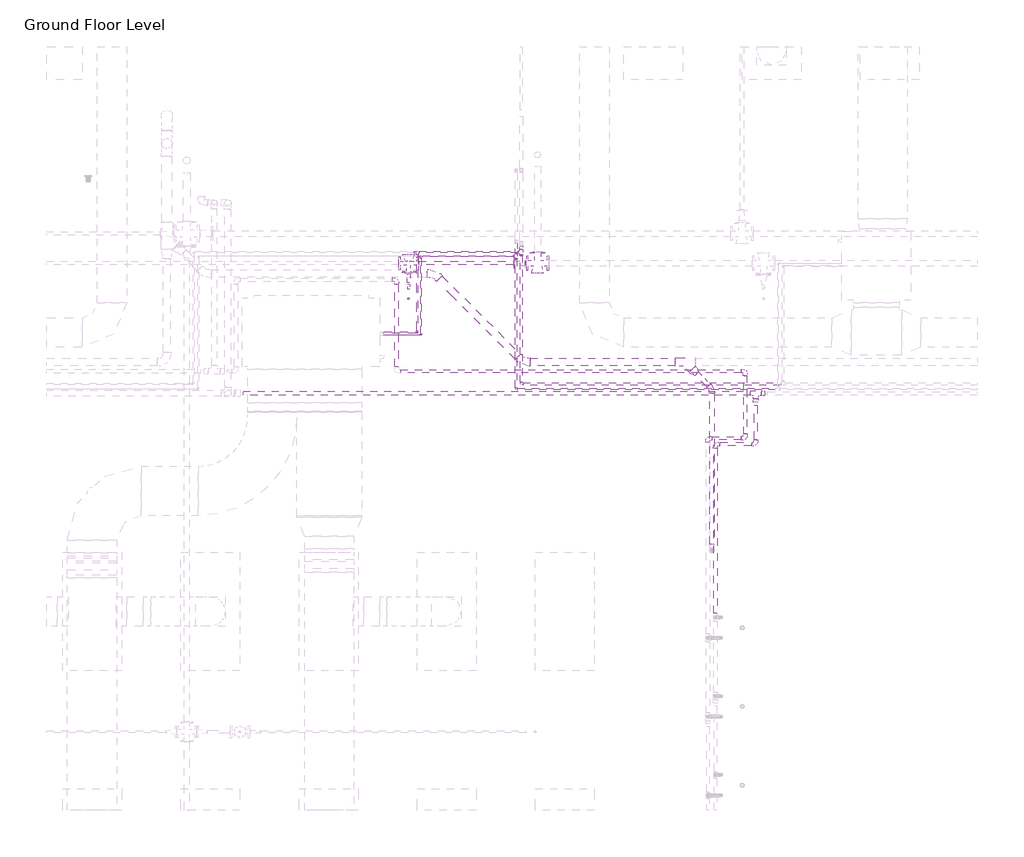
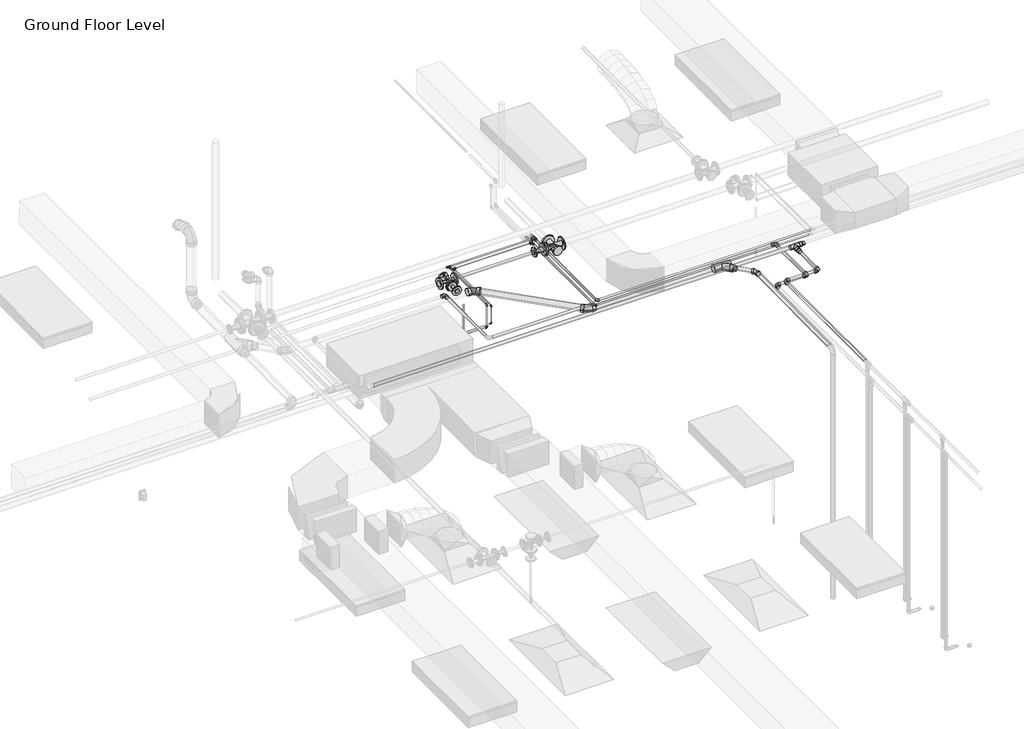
# One storey, part 53 of 74: 36 pipe fittings, 29 pipe segments, 1 fire suppression terminal.
"""IFC4 building model written with IfcOpenShell, lengths in millimetres."""

from ifc_helpers import new_model, si_unit, point, frame, frame_2d, origin, place, context, project, spatial, circle_curve, trimmed, segment, composite_curve, outline, extrude, transform, mapped, element, save
from components import m_sprinkler_pendent_15_mm_pendent_06fcbd8e, m_bend_pvc_sch_40_dwv_standard_9e3ead78, m_bend_pvc_sch_40_dwv_standard_3e306cb9, m_elbow_generic_standard_a088f956, m_elbow_generic_standard_2a704253, m_elbow_generic_standard_f25111a3, m_elbow_generic_standard_aa88c7e2, m_elbow_generic_standard_73005802, m_elbow_generic_standard_bb5ffebe, m_reducer_flanged_cs_class_150_standard_ccf252ad, m_reducer_flanged_cs_class_150_standard_a7631c35, m_reducer_pvc_sch_40_dwv_standard_daff2b06, m_tee_generic_standard_cdc1cff5, m_tee_generic_standard_d9c36a1d, m_tee_generic_standard_3138dd84, m_tee_generic_standard_5078887e, m_tee_pvc_sch_40_standard_5dbb3026, m_tee_round_base_flanged_cs_class_150_standard_dd767e04, m_tee_round_base_flanged_cs_class_150_standard_7e5987a1, m_transition_generic_standard_6dc712c0, m_transition_generic_standard_b63c8674, m_transition_generic_standard_1c56dba2, m_transition_generic_standard_a7d161d7, m_transition_generic_standard_5a02929d, m_transition_generic_standard_5f8a9689, standard_517a5a8d, standard_08ff6011, standard_d0d0b892

model = new_model("IFC4")

# Units and contexts
model_context = context("Model", 3, world=origin())
ifc_project = project(units=[si_unit("LENGTHUNIT", "METRE", prefix="MILLI")], contexts=[model_context])

# Site, building, storey
site = spatial("IfcSite", under=ifc_project)
building = spatial("IfcBuilding", under=site)
storey = spatial("IfcBuildingStorey", under=building, Name="Ground Floor Level", Elevation=900.0)

# Fire suppression terminal
placement = place(None, origin())
m_sprinkler_pendent_15_mm_pendent_shape = m_sprinkler_pendent_15_mm_pendent_06fcbd8e(model_context)
element("IfcFireSuppressionTerminal", 1, ObjectType="M_Sprinkler - Pendent : 15 mm Pendent", at=placement, inside=storey, context=model_context, shape_type="MappedRepresentation", body=[
    mapped(m_sprinkler_pendent_15_mm_pendent_shape, transform((-3723.9852405, 14413.1701264, 3650.0), x_axis=(1.0, 0.0, 0.0), y_axis=(0.0, 1.0, 0.0), z_axis=(0.0, 0.0, 1.0))),
])

# Pipe fittings
m_bend_pvc_sch_40_dwv_standard_shape = m_bend_pvc_sch_40_dwv_standard_9e3ead78(model_context)
element("IfcPipeFitting", 2, ObjectType="M_Bend - PVC - Sch 40 - DWV : Standard", at=placement, inside=storey, context=model_context, shape_type="MappedRepresentation", body=[
    mapped(m_bend_pvc_sch_40_dwv_standard_shape, transform((-3461.339311, 14668.7334723, 4139.7239678), x_axis=(-0.707093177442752, 0.7070575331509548, 0.009427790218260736), y_axis=(-0.7070496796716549, -0.7071481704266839, 0.004713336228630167), z_axis=(0.009999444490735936, -0.003333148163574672, 0.9999444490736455))),
])
element("IfcPipeFitting", 3, ObjectType="M_Bend - PVC - Sch 40 - DWV : Standard", at=placement, inside=storey, context=model_context, shape_type="MappedRepresentation", body=[
    mapped(m_bend_pvc_sch_40_dwv_standard_shape, transform((-2561.2921336, 13768.7316659, 4127.72349), x_axis=(0.7070931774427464, -0.7070575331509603, -0.009427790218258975), y_axis=(0.7070496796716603, 0.7071481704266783, -0.0047133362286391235), z_axis=(0.009999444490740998, -0.003333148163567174, 0.9999444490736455))),
])
m_bend_pvc_sch_40_dwv_standard_2_shape = m_bend_pvc_sch_40_dwv_standard_3e306cb9(model_context)
element("IfcPipeFitting", 4, ObjectType="M_Bend - PVC - Sch 40 - DWV : Standard", at=placement, inside=storey, context=model_context, shape_type="MappedRepresentation", body=[
    mapped(m_bend_pvc_sch_40_dwv_standard_2_shape, transform((-642.2357232, 13495.4654482, 4110.1731446), x_axis=(0.0, 0.9999500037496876, 0.009999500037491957), y_axis=(-0.9999912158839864, -4.191228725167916e-05, 0.004191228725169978), z_axis=(0.004191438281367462, -0.00999941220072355, 0.9999412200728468))),
])
m_elbow_generic_standard_shape = m_elbow_generic_standard_a088f956(model_context)
element("IfcPipeFitting", 5, ObjectType="M_Elbow - Generic : Standard", at=placement, inside=storey, context=model_context, shape_type="MappedRepresentation", body=[
    mapped(m_elbow_generic_standard_shape, transform((-3637.0883718, 14069.8153534, 4380.0), x_axis=(0.0, 0.0, 1.0), y_axis=(0.0, 1.0, 0.0), z_axis=(-1.0, 0.0, 0.0))),
])
m_elbow_generic_standard_2_shape = m_elbow_generic_standard_2a704253(model_context)
element("IfcPipeFitting", 6, ObjectType="M_Elbow - Generic : Standard", at=placement, inside=storey, context=model_context, shape_type="MappedRepresentation", body=[
    mapped(m_elbow_generic_standard_2_shape, transform((-3597.0886568, 14044.8153534, 4365.0), x_axis=(0.0, 0.0, 1.0), y_axis=(0.0, 1.0, 0.0), z_axis=(-1.0, 0.0, 0.0))),
])
m_elbow_generic_standard_3_shape = m_elbow_generic_standard_f25111a3(model_context)
element("IfcPipeFitting", 7, ObjectType="M_Elbow - Generic : Standard", at=placement, inside=storey, context=model_context, shape_type="MappedRepresentation", body=[
    mapped(m_elbow_generic_standard_3_shape, transform((-3597.0886568, 14044.8153534, 4134.9021206), x_axis=(0.9999999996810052, 0.0, 2.525845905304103e-05), y_axis=(-2.525845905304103e-05, 0.0, 0.9999999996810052), z_axis=(0.0, -1.0, 0.0))),
])
m_elbow_generic_standard_4_shape = m_elbow_generic_standard_aa88c7e2(model_context)
element("IfcPipeFitting", 8, ObjectType="M_Elbow - Generic : Standard", at=placement, inside=storey, context=model_context, shape_type="MappedRepresentation", body=[
    mapped(m_elbow_generic_standard_4_shape, transform((-3637.0883718, 14069.8153534, 4084.1021206), x_axis=(0.9999999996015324, 0.0, 2.823004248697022e-05), y_axis=(-2.823004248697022e-05, 0.0, 0.9999999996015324), z_axis=(0.0, -1.0, 0.0))),
])
m_elbow_generic_standard_5_shape = m_elbow_generic_standard_73005802(model_context)
element("IfcPipeFitting", 9, ObjectType="M_Elbow - Generic : Standard", at=placement, inside=storey, context=model_context, shape_type="MappedRepresentation", body=[
    mapped(m_elbow_generic_standard_5_shape, transform((-2579.6952605, 13545.2153534, 4380.0), x_axis=(0.0, -1.0, 0.0), y_axis=(1.0, 0.0, 0.0), z_axis=(0.0, 0.0, 1.0))),
])
m_elbow_generic_standard_6_shape = m_elbow_generic_standard_bb5ffebe(model_context)
element("IfcPipeFitting", 10, ObjectType="M_Elbow - Generic : Standard", at=placement, inside=storey, context=model_context, shape_type="MappedRepresentation", body=[
    mapped(m_elbow_generic_standard_6_shape, transform((-2632.5317947, 13494.0185138, 4365.0), x_axis=(0.0, -1.0, 0.0), y_axis=(1.0, 0.0, 0.0), z_axis=(0.0, 0.0, 1.0))),
])
m_reducer_flanged_cs_class_150_standard_shape = m_reducer_flanged_cs_class_150_standard_ccf252ad(model_context)
element("IfcPipeFitting", 11, ObjectType="M_Reducer - Flanged - CS - Class 150 : Standard", at=placement, inside=storey, context=model_context, shape_type="MappedRepresentation", body=[
    mapped(m_reducer_flanged_cs_class_150_standard_shape, transform((-3723.9852405, 14672.759591, 4291.0943441), x_axis=(0.0, -1.0, 0.0), y_axis=(1.0, 0.0, 0.0), z_axis=(0.0, 0.0, 1.0))),
])
m_reducer_flanged_cs_class_150_standard_2_shape = m_reducer_flanged_cs_class_150_standard_a7631c35(model_context)
element("IfcPipeFitting", 12, ObjectType="M_Reducer - Flanged - CS - Class 150 : Standard", at=placement, inside=storey, context=model_context, shape_type="MappedRepresentation", body=[
    mapped(m_reducer_flanged_cs_class_150_standard_2_shape, transform((-2527.9259545, 14773.4681847, 4291.0943441), x_axis=(-1.0, 0.0, 0.0), y_axis=(0.0, -1.0, 0.0), z_axis=(0.0, 0.0, 1.0))),
])
m_reducer_pvc_sch_40_dwv_standard_shape = m_reducer_pvc_sch_40_dwv_standard_daff2b06(model_context)
element("IfcPipeFitting", 13, ObjectType="M_Reducer - PVC - Sch 40 - DWV : Standard", at=placement, inside=storey, context=model_context, shape_type="MappedRepresentation", body=[
    mapped(m_reducer_pvc_sch_40_dwv_standard_shape, transform((-843.6840301, 13696.9036229, 4110.2439857), x_axis=(0.7070889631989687, -0.7070533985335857, -0.010034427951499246), y_axis=(0.707053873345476, 0.7071477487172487, -0.004108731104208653), z_axis=(0.010000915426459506, -0.004189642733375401, 0.9999412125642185))),
])
m_tee_generic_standard_shape = m_tee_generic_standard_cdc1cff5(model_context)
element("IfcPipeFitting", 14, ObjectType="M_Tee - Generic : Standard", at=placement, inside=storey, context=model_context, shape_type="MappedRepresentation", body=[
    mapped(m_tee_generic_standard_shape, transform((-3637.091079, 14885.6024145, 4380.0), x_axis=(-1.0, 0.0, 0.0), y_axis=(0.0, 1.0, 0.0), z_axis=(0.0, 0.0, -1.0))),
])
m_tee_generic_standard_2_shape = m_tee_generic_standard_d9c36a1d(model_context)
element("IfcPipeFitting", 15, ObjectType="M_Tee - Generic : Standard", at=placement, inside=storey, context=model_context, shape_type="MappedRepresentation", body=[
    mapped(m_tee_generic_standard_2_shape, transform((-3597.091079, 14844.4055749, 4365.0), x_axis=(1.0, 0.0, 0.0), y_axis=(0.0, 1.0, 0.0), z_axis=(0.0, 0.0, 1.0))),
])
m_tee_generic_standard_3_shape = m_tee_generic_standard_3138dd84(model_context)
element("IfcPipeFitting", 16, ObjectType="M_Tee - Generic : Standard", at=placement, inside=storey, context=model_context, shape_type="MappedRepresentation", body=[
    mapped(m_tee_generic_standard_3_shape, transform((-2579.6952605, 14885.6024145, 4380.0), x_axis=(0.0, 1.0, 0.0), y_axis=(1.0, 0.0, 0.0), z_axis=(0.0, 0.0, -1.0))),
])
m_tee_generic_standard_4_shape = m_tee_generic_standard_5078887e(model_context)
element("IfcPipeFitting", 17, ObjectType="M_Tee - Generic : Standard", at=placement, inside=storey, context=model_context, shape_type="MappedRepresentation", body=[
    mapped(m_tee_generic_standard_4_shape, transform((-2632.5317947, 14844.4055749, 4365.0), x_axis=(0.0, 1.0, 0.0), y_axis=(1.0, 0.0, 0.0), z_axis=(0.0, 0.0, -1.0))),
])
m_tee_pvc_sch_40_standard_shape = m_tee_pvc_sch_40_standard_5dbb3026(model_context)
element("IfcPipeFitting", 18, ObjectType="M_Tee - PVC - Sch 40 : Standard", at=placement, inside=storey, context=model_context, shape_type="MappedRepresentation", body=[
    mapped(m_tee_pvc_sch_40_standard_shape, transform((-915.515686, 13768.7316659, 4111.2633618), x_axis=(-0.9999499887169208, 0.0, 0.010001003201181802), y_axis=(4.190063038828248e-05, 0.9999912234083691, 0.004189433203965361), z_axis=(-0.010000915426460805, 0.004189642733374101, -0.9999412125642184))),
])
m_tee_round_base_flanged_cs_class_150_standard_shape = m_tee_round_base_flanged_cs_class_150_standard_dd767e04(model_context)
element("IfcPipeFitting", 19, ObjectType="M_Tee Round Base - Flanged - CS - Class 150 : Standard", at=placement, inside=storey, context=model_context, shape_type="MappedRepresentation", body=[
    mapped(m_tee_round_base_flanged_cs_class_150_standard_shape, transform((-2413.9259545, 14773.4681847, 4291.0943441), x_axis=(-1.0, 0.0, 0.0), y_axis=(0.0, -1.0, 0.0), z_axis=(0.0, 0.0, 1.0))),
])
m_tee_round_base_flanged_cs_class_150_standard_2_shape = m_tee_round_base_flanged_cs_class_150_standard_7e5987a1(model_context)
element("IfcPipeFitting", 20, ObjectType="M_Tee Round Base - Flanged - CS - Class 150 : Standard", at=placement, inside=storey, context=model_context, shape_type="MappedRepresentation", body=[
    mapped(m_tee_round_base_flanged_cs_class_150_standard_2_shape, transform((-3723.9852405, 14773.4681847, 4291.0943441), x_axis=(-1.0, 0.0, 0.0), y_axis=(0.0, 1.0, 0.0), z_axis=(0.0, 0.0, -1.0))),
])
m_transition_generic_standard_shape = m_transition_generic_standard_6dc712c0(model_context)
element("IfcPipeFitting", 21, ObjectType="M_Transition - Generic : Standard", at=placement, inside=storey, context=model_context, shape_type="MappedRepresentation", body=[
    mapped(m_transition_generic_standard_shape, transform((-3659.316079, 14885.6024145, 4380.0), x_axis=(-1.0, 0.0, 0.0), y_axis=(0.0, -1.0, 0.0), z_axis=(0.0, 0.0, 1.0))),
])
element("IfcPipeFitting", 22, ObjectType="M_Transition - Generic : Standard", at=placement, inside=storey, context=model_context, shape_type="MappedRepresentation", body=[
    mapped(m_transition_generic_standard_shape, transform((-3637.091079, 14863.3774145, 4380.0), x_axis=(0.0, -1.0, 0.0), y_axis=(1.0, 0.0, 0.0), z_axis=(0.0, 0.0, 1.0))),
])
m_transition_generic_standard_2_shape = m_transition_generic_standard_b63c8674(model_context)
element("IfcPipeFitting", 23, ObjectType="M_Transition - Generic : Standard", at=placement, inside=storey, context=model_context, shape_type="MappedRepresentation", body=[
    mapped(m_transition_generic_standard_2_shape, transform((-3616.128579, 14844.4055749, 4365.0), x_axis=(-1.0, 0.0, 0.0), y_axis=(0.0, -1.0, 0.0), z_axis=(0.0, 0.0, 1.0))),
])
element("IfcPipeFitting", 24, ObjectType="M_Transition - Generic : Standard", at=placement, inside=storey, context=model_context, shape_type="MappedRepresentation", body=[
    mapped(m_transition_generic_standard_2_shape, transform((-3597.091079, 14825.3680749, 4365.0), x_axis=(0.0, -1.0, 0.0), y_axis=(1.0, 0.0, 0.0), z_axis=(0.0, 0.0, 1.0))),
])
m_transition_generic_standard_3_shape = m_transition_generic_standard_1c56dba2(model_context)
element("IfcPipeFitting", 25, ObjectType="M_Transition - Generic : Standard", at=placement, inside=storey, context=model_context, shape_type="MappedRepresentation", body=[
    mapped(m_transition_generic_standard_3_shape, transform((-2608.2702605, 14885.6024145, 4380.0), x_axis=(-1.0, 0.0, 0.0), y_axis=(0.0, -1.0, 0.0), z_axis=(0.0, 0.0, 1.0))),
])
m_transition_generic_standard_4_shape = m_transition_generic_standard_a7d161d7(model_context)
element("IfcPipeFitting", 26, ObjectType="M_Transition - Generic : Standard", at=placement, inside=storey, context=model_context, shape_type="MappedRepresentation", body=[
    mapped(m_transition_generic_standard_4_shape, transform((-2656.3442947, 14844.4055749, 4365.0), x_axis=(-1.0, 0.0, 0.0), y_axis=(0.0, -1.0, 0.0), z_axis=(0.0, 0.0, 1.0))),
])
m_transition_generic_standard_5_shape = m_transition_generic_standard_5a02929d(model_context)
element("IfcPipeFitting", 27, ObjectType="M_Transition - Generic : Standard", at=placement, inside=storey, context=model_context, shape_type="MappedRepresentation", body=[
    mapped(m_transition_generic_standard_5_shape, transform((-2579.6952605, 14857.0274145, 4380.0), x_axis=(0.0, -1.0, 0.0), y_axis=(1.0, 0.0, 0.0), z_axis=(0.0, 0.0, 1.0))),
])
m_transition_generic_standard_6_shape = m_transition_generic_standard_5f8a9689(model_context)
element("IfcPipeFitting", 28, ObjectType="M_Transition - Generic : Standard", at=placement, inside=storey, context=model_context, shape_type="MappedRepresentation", body=[
    mapped(m_transition_generic_standard_6_shape, transform((-2632.5317947, 14820.5930749, 4365.0), x_axis=(0.0, -1.0, 0.0), y_axis=(1.0, 0.0, 0.0), z_axis=(0.0, 0.0, 1.0))),
])
standard_shape = standard_517a5a8d(model_context)
element("IfcPipeFitting", 29, ObjectType="M_Elbow - CPVC - Sch 40 : Standard", at=placement, inside=storey, context=model_context, shape_type="MappedRepresentation", body=[
    mapped(standard_shape, transform((-607.2327605, 12935.5128345, 4315.0), x_axis=(-1.0, 0.0, 0.0), y_axis=(0.0, -1.0, 0.0), z_axis=(0.0, 0.0, 1.0))),
])
element("IfcPipeFitting", 30, ObjectType="M_Elbow - CPVC - Sch 40 : Standard", at=placement, inside=storey, context=model_context, shape_type="MappedRepresentation", body=[
    mapped(standard_shape, transform((-197.2327605, 12935.5128345, 4315.0), x_axis=(1.0, 0.0, 0.0), y_axis=(0.0, 1.0, 0.0), z_axis=(0.0, 0.0, 1.0))),
])
element("IfcPipeFitting", 31, ObjectType="M_Elbow - CPVC - Sch 40 : Standard", at=placement, inside=storey, context=model_context, shape_type="MappedRepresentation", body=[
    mapped(standard_shape, transform((-304.0671674, 13675.2153534, 4250.0), x_axis=(0.0, 1.0, 0.0), y_axis=(-1.0, 0.0, 0.0), z_axis=(0.0, 0.0, 1.0))),
])
element("IfcPipeFitting", 32, ObjectType="M_Elbow - CPVC - Sch 40 : Standard", at=placement, inside=storey, context=model_context, shape_type="MappedRepresentation", body=[
    mapped(standard_shape, transform((-304.0671674, 12995.2153534, 4250.0), x_axis=(1.0, 0.0, 0.0), y_axis=(0.0, 1.0, 0.0), z_axis=(0.0, 0.0, 1.0))),
])
element("IfcPipeFitting", 33, ObjectType="M_Elbow - CPVC - Sch 40 : Standard", at=placement, inside=storey, context=model_context, shape_type="MappedRepresentation", body=[
    mapped(standard_shape, transform((-684.0671674, 12995.2153534, 4250.0), x_axis=(-1.0, 0.0, 0.0), y_axis=(0.0, -1.0, 0.0), z_axis=(0.0, 0.0, 1.0))),
])
element("IfcPipeFitting", 34, ObjectType="M_Elbow - CPVC - Sch 40 : Standard", at=placement, inside=storey, context=model_context, shape_type="MappedRepresentation", body=[
    mapped(standard_shape, transform((-3846.4489567, 14603.43487, 4250.0), x_axis=(0.0, 1.0, 0.0), y_axis=(-1.0, 0.0, 0.0), z_axis=(0.0, 0.0, 1.0))),
])
standard_2_shape = standard_08ff6011(model_context)
element("IfcPipeFitting", 35, ObjectType="M_Tee - CPVC - Sch 40 : Standard", at=placement, inside=storey, context=model_context, shape_type="MappedRepresentation", body=[
    mapped(standard_2_shape, transform((-197.2327605, 13449.9865561, 4315.0), x_axis=(1.0, 0.0, 0.0), y_axis=(0.0, 1.0, 0.0), z_axis=(0.0, 0.0, 1.0))),
])
standard_3_shape = standard_d0d0b892(model_context)
element("IfcPipeFitting", 36, ObjectType="M_Coupling Reducing - CPVC - Sch 40 : Standard", at=placement, inside=storey, context=model_context, shape_type="MappedRepresentation", body=[
    mapped(standard_3_shape, transform((-143.2577605, 13449.9865561, 4315.0), x_axis=(1.0, 0.0, 0.0), y_axis=(0.0, 1.0, 0.0), z_axis=(0.0, 0.0, 1.0))),
])
element("IfcPipeFitting", 37, ObjectType="M_Coupling Reducing - CPVC - Sch 40 : Standard", at=placement, inside=storey, context=model_context, shape_type="MappedRepresentation", body=[
    mapped(standard_3_shape, transform((-197.2327605, 13396.0115561, 4315.0), x_axis=(0.0, -1.0, 0.0), y_axis=(1.0, 0.0, 0.0), z_axis=(0.0, 0.0, 1.0))),
])

# Pipe segments
element("IfcPipeSegment", 38, ObjectType="CPVC", at=placement, inside=storey, context=model_context, shape_type="SweptSolid", body=[
    extrude(outline(composite_curve([segment(trimmed(circle_curve(frame_2d((4315.0, -607.2327605)), 16.7005), [point((4315.0, -590.5322605))], [point((4331.7005, -607.2327605))], False, "CARTESIAN"), True, "CONTINUOUS"), segment(trimmed(circle_curve(frame_2d((4315.0, -607.2327605)), 16.7005), [point((4331.7005, -607.2327605))], [point((4315.0, -623.9332605))], False, "CARTESIAN"), True, "CONTINUOUS"), segment(trimmed(circle_curve(frame_2d((4315.0, -607.2327605)), 16.7005), [point((4315.0, -623.9332605))], [point((4298.2995, -607.2327605))], False, "CARTESIAN"), True, "CONTINUOUS"), segment(trimmed(circle_curve(frame_2d((4315.0, -607.2327605)), 16.7005), [point((4298.2995, -607.2327605))], [point((4315.0, -590.5322605))], False, "CARTESIAN"), True, "CONTINUOUS")], self_intersect=False)), frame((0.0, 11215.2130345, 0.0), z_axis=(0.0, 1.0, 0.0), x_axis=(0.0, 0.0, 1.0)), (0.0, 0.0, 1.0), 1677.03725),
])
element("IfcPipeSegment", 39, ObjectType="CPVC", at=placement, inside=storey, context=model_context, shape_type="SweptSolid", body=[
    extrude(outline(composite_curve([segment(trimmed(circle_curve(frame_2d((12935.5128345, 4315.0)), 16.7005), [point((12918.8123345, 4315.0))], [point((12935.5128345, 4331.7005))], False, "CARTESIAN"), True, "CONTINUOUS"), segment(trimmed(circle_curve(frame_2d((12935.5128345, 4315.0)), 16.7005), [point((12935.5128345, 4331.7005))], [point((12952.2133345, 4315.0))], False, "CARTESIAN"), True, "CONTINUOUS"), segment(trimmed(circle_curve(frame_2d((12935.5128345, 4315.0)), 16.7005), [point((12952.2133345, 4315.0))], [point((12935.5128345, 4298.2995))], False, "CARTESIAN"), True, "CONTINUOUS"), segment(trimmed(circle_curve(frame_2d((12935.5128345, 4315.0)), 16.7005), [point((12935.5128345, 4298.2995))], [point((12918.8123345, 4315.0))], False, "CARTESIAN"), True, "CONTINUOUS")], self_intersect=False)), frame((-563.9702105, 0.0, 0.0), z_axis=(1.0, 0.0, 0.0), x_axis=(0.0, 1.0, 0.0)), (0.0, 0.0, 1.0), 323.4749),
])
element("IfcPipeSegment", 40, ObjectType="CPVC", at=placement, inside=storey, context=model_context, shape_type="SweptSolid", body=[
    extrude(outline(composite_curve([segment(trimmed(circle_curve(frame_2d((4315.0, -197.2327605)), 16.7005), [point((4315.0, -180.5322605))], [point((4331.7005, -197.2327605))], False, "CARTESIAN"), True, "CONTINUOUS"), segment(trimmed(circle_curve(frame_2d((4315.0, -197.2327605)), 16.7005), [point((4331.7005, -197.2327605))], [point((4315.0, -213.9332605))], False, "CARTESIAN"), True, "CONTINUOUS"), segment(trimmed(circle_curve(frame_2d((4315.0, -197.2327605)), 16.7005), [point((4315.0, -213.9332605))], [point((4298.2995, -197.2327605))], False, "CARTESIAN"), True, "CONTINUOUS"), segment(trimmed(circle_curve(frame_2d((4315.0, -197.2327605)), 16.7005), [point((4298.2995, -197.2327605))], [point((4315.0, -180.5322605))], False, "CARTESIAN"), True, "CONTINUOUS")], self_intersect=False)), frame((0.0, 12978.7753845, 0.0), z_axis=(0.0, 1.0, 0.0), x_axis=(0.0, 0.0, 1.0)), (0.0, 0.0, 1.0), 351.1172966),
])
element("IfcPipeSegment", 41, ObjectType="CPVC", at=placement, inside=storey, context=model_context, shape_type="SweptSolid", body=[
    extrude(outline(composite_curve([segment(trimmed(circle_curve(frame_2d((13449.9865561, 4315.0)), 21.082), [point((13471.0685561, 4315.0))], [point((13449.9865561, 4293.918))], False, "CARTESIAN"), True, "CONTINUOUS"), segment(trimmed(circle_curve(frame_2d((13449.9865561, 4315.0)), 21.082), [point((13449.9865561, 4293.918))], [point((13428.9045561, 4315.0))], False, "CARTESIAN"), True, "CONTINUOUS"), segment(trimmed(circle_curve(frame_2d((13449.9865561, 4315.0)), 21.082), [point((13428.9045561, 4315.0))], [point((13449.9865561, 4336.082))], False, "CARTESIAN"), True, "CONTINUOUS"), segment(trimmed(circle_curve(frame_2d((13449.9865561, 4315.0)), 21.082), [point((13449.9865561, 4336.082))], [point((13471.0685561, 4315.0))], False, "CARTESIAN"), True, "CONTINUOUS")], self_intersect=False)), frame((-5401.6556136, 0.0, 0.0), z_axis=(1.0, 0.0, 0.0), x_axis=(0.0, 1.0, 0.0)), (0.0, 0.0, 1.0), 5150.4478531),
])
element("IfcPipeSegment", 42, ObjectType="CPVC", at=placement, inside=storey, context=model_context, shape_type="SweptSolid", body=[
    extrude(outline(composite_curve([segment(trimmed(circle_curve(frame_2d((4250.0, -304.0671674)), 16.7005), [point((4250.0, -320.7676674))], [point((4233.2995, -304.0671674))], False, "CARTESIAN"), True, "CONTINUOUS"), segment(trimmed(circle_curve(frame_2d((4250.0, -304.0671674)), 16.7005), [point((4233.2995, -304.0671674))], [point((4250.0, -287.3666674))], False, "CARTESIAN"), True, "CONTINUOUS"), segment(trimmed(circle_curve(frame_2d((4250.0, -304.0671674)), 16.7005), [point((4250.0, -287.3666674))], [point((4266.7005, -304.0671674))], False, "CARTESIAN"), True, "CONTINUOUS"), segment(trimmed(circle_curve(frame_2d((4250.0, -304.0671674)), 16.7005), [point((4266.7005, -304.0671674))], [point((4250.0, -320.7676674))], False, "CARTESIAN"), True, "CONTINUOUS")], self_intersect=False)), frame((0.0, 13038.4779034, 0.0), z_axis=(0.0, 1.0, 0.0), x_axis=(0.0, 0.0, 1.0)), (0.0, 0.0, 1.0), 593.4749),
])
element("IfcPipeSegment", 43, ObjectType="CPVC", at=placement, inside=storey, context=model_context, shape_type="SweptSolid", body=[
    extrude(outline(composite_curve([segment(trimmed(circle_curve(frame_2d((12995.2153534, 4250.0)), 16.7005), [point((13011.9158534, 4250.0))], [point((12995.2153534, 4233.2995))], False, "CARTESIAN"), True, "CONTINUOUS"), segment(trimmed(circle_curve(frame_2d((12995.2153534, 4250.0)), 16.7005), [point((12995.2153534, 4233.2995))], [point((12978.5148534, 4250.0))], False, "CARTESIAN"), True, "CONTINUOUS"), segment(trimmed(circle_curve(frame_2d((12995.2153534, 4250.0)), 16.7005), [point((12978.5148534, 4250.0))], [point((12995.2153534, 4266.7005))], False, "CARTESIAN"), True, "CONTINUOUS"), segment(trimmed(circle_curve(frame_2d((12995.2153534, 4250.0)), 16.7005), [point((12995.2153534, 4266.7005))], [point((13011.9158534, 4250.0))], False, "CARTESIAN"), True, "CONTINUOUS")], self_intersect=False)), frame((-640.8046174, 0.0, 0.0), z_axis=(1.0, 0.0, 0.0), x_axis=(0.0, 1.0, 0.0)), (0.0, 0.0, 1.0), 293.4749),
])
element("IfcPipeSegment", 44, ObjectType="CPVC", at=placement, inside=storey, context=model_context, shape_type="SweptSolid", body=[
    extrude(outline(composite_curve([segment(trimmed(circle_curve(frame_2d((4250.0, -3846.4489567)), 16.7005), [point((4250.0, -3863.1494567))], [point((4233.2995, -3846.4489567))], False, "CARTESIAN"), True, "CONTINUOUS"), segment(trimmed(circle_curve(frame_2d((4250.0, -3846.4489567)), 16.7005), [point((4233.2995, -3846.4489567))], [point((4250.0, -3829.7484567))], False, "CARTESIAN"), True, "CONTINUOUS"), segment(trimmed(circle_curve(frame_2d((4250.0, -3846.4489567)), 16.7005), [point((4250.0, -3829.7484567))], [point((4266.7005, -3846.4489567))], False, "CARTESIAN"), True, "CONTINUOUS"), segment(trimmed(circle_curve(frame_2d((4250.0, -3846.4489567)), 16.7005), [point((4266.7005, -3846.4489567))], [point((4250.0, -3863.1494567))], False, "CARTESIAN"), True, "CONTINUOUS")], self_intersect=False)), frame((0.0, 13718.4779034, 0.0), z_axis=(0.0, 1.0, 0.0), x_axis=(0.0, 0.0, 1.0)), (0.0, 0.0, 1.0), 841.6944166),
])
element("IfcPipeSegment", 45, ObjectType="CPVC", at=placement, inside=storey, context=model_context, shape_type="SweptSolid", body=[
    extrude(outline(composite_curve([segment(trimmed(circle_curve(frame_2d((13675.2153534, 4250.0)), 16.7005), [point((13691.9158534, 4250.0))], [point((13675.2153534, 4233.2995))], False, "CARTESIAN"), True, "CONTINUOUS"), segment(trimmed(circle_curve(frame_2d((13675.2153534, 4250.0)), 16.7005), [point((13675.2153534, 4233.2995))], [point((13658.5148534, 4250.0))], False, "CARTESIAN"), True, "CONTINUOUS"), segment(trimmed(circle_curve(frame_2d((13675.2153534, 4250.0)), 16.7005), [point((13658.5148534, 4250.0))], [point((13675.2153534, 4266.7005))], False, "CARTESIAN"), True, "CONTINUOUS"), segment(trimmed(circle_curve(frame_2d((13675.2153534, 4250.0)), 16.7005), [point((13675.2153534, 4266.7005))], [point((13691.9158534, 4250.0))], False, "CARTESIAN"), True, "CONTINUOUS")], self_intersect=False)), frame((-3803.1864067, 0.0, 0.0), z_axis=(1.0, 0.0, 0.0), x_axis=(0.0, 1.0, 0.0)), (0.0, 0.0, 1.0), 3455.8566893),
])
element("IfcPipeSegment", 46, ObjectType="Copper", at=placement, inside=storey, context=model_context, shape_type="SweptSolid", body=[
    extrude(outline(composite_curve([segment(trimmed(circle_curve(frame_2d((4380.0, -2579.6952605)), 11.5), [point((4380.0, -2591.1952605))], [point((4368.5, -2579.6952605))], False, "CARTESIAN"), True, "CONTINUOUS"), segment(trimmed(circle_curve(frame_2d((4380.0, -2579.6952605)), 11.5), [point((4368.5, -2579.6952605))], [point((4380.0, -2568.1952605))], False, "CARTESIAN"), True, "CONTINUOUS"), segment(trimmed(circle_curve(frame_2d((4380.0, -2579.6952605)), 11.5), [point((4380.0, -2568.1952605))], [point((4391.5, -2579.6952605))], False, "CARTESIAN"), True, "CONTINUOUS"), segment(trimmed(circle_curve(frame_2d((4380.0, -2579.6952605)), 11.5), [point((4391.5, -2579.6952605))], [point((4380.0, -2591.1952605))], False, "CARTESIAN"), True, "CONTINUOUS")], self_intersect=False)), frame((0.0, 13564.2653534, 0.0), z_axis=(0.0, 1.0, 0.0), x_axis=(0.0, 0.0, 1.0)), (0.0, 0.0, 1.0), 1284.8245611),
])
element("IfcPipeSegment", 47, ObjectType="Copper", at=placement, inside=storey, context=model_context, shape_type="SweptSolid", body=[
    extrude(outline(composite_curve([segment(trimmed(circle_curve(frame_2d((4365.0, -2632.5317947)), 8.1), [point((4365.0, -2640.6317947))], [point((4356.9, -2632.5317947))], False, "CARTESIAN"), True, "CONTINUOUS"), segment(trimmed(circle_curve(frame_2d((4365.0, -2632.5317947)), 8.1), [point((4356.9, -2632.5317947))], [point((4365.0, -2624.4317947))], False, "CARTESIAN"), True, "CONTINUOUS"), segment(trimmed(circle_curve(frame_2d((4365.0, -2632.5317947)), 8.1), [point((4365.0, -2624.4317947))], [point((4373.1, -2632.5317947))], False, "CARTESIAN"), True, "CONTINUOUS"), segment(trimmed(circle_curve(frame_2d((4365.0, -2632.5317947)), 8.1), [point((4373.1, -2632.5317947))], [point((4365.0, -2640.6317947))], False, "CARTESIAN"), True, "CONTINUOUS")], self_intersect=False)), frame((0.0, 13509.8935138, 0.0), z_axis=(0.0, 1.0, 0.0), x_axis=(0.0, 0.0, 1.0)), (0.0, 0.0, 1.0), 1305.1433111),
])
element("IfcPipeSegment", 48, ObjectType="Copper", at=placement, inside=storey, context=model_context, shape_type="SweptSolid", body=[
    extrude(outline(composite_curve([segment(trimmed(circle_curve(frame_2d((0.0, 6.5)), 6.5), [point((-6.5, 6.5))], [point((0.0, 13.0))], False, "CARTESIAN"), True, "CONTINUOUS"), segment(trimmed(circle_curve(frame_2d((0.0, 6.5)), 6.5), [point((0.0, 13.0))], [point((6.5, 6.5))], False, "CARTESIAN"), True, "CONTINUOUS"), segment(trimmed(circle_curve(frame_2d((0.0, 6.5)), 6.5), [point((6.5, 6.5))], [point((0.0, 0.0))], False, "CARTESIAN"), True, "CONTINUOUS"), segment(trimmed(circle_curve(frame_2d((0.0, 6.5)), 6.5), [point((0.0, 0.0))], [point((-6.5, 6.5))], False, "CARTESIAN"), True, "CONTINUOUS")], self_intersect=False)), frame((-3977.0908954, 14069.8153534, 4077.5925223), z_axis=(0.9999999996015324, 0.0, 2.8230042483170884e-05), x_axis=(0.0, 1.0, 0.0)), (0.0, 0.0, 1.0), 325.7156105),
])
element("IfcPipeSegment", 49, ObjectType="Copper", at=placement, inside=storey, context=model_context, shape_type="SweptSolid", body=[
    extrude(outline(composite_curve([segment(trimmed(circle_curve(frame_2d((0.0, 6.5)), 6.5), [point((0.0, 13.0))], [point((6.5, 6.5))], False, "CARTESIAN"), True, "CONTINUOUS"), segment(trimmed(circle_curve(frame_2d((0.0, 6.5)), 6.5), [point((6.5, 6.5))], [point((0.0, 0.0))], False, "CARTESIAN"), True, "CONTINUOUS"), segment(trimmed(circle_curve(frame_2d((0.0, 6.5)), 6.5), [point((0.0, 0.0))], [point((-6.5, 6.5))], False, "CARTESIAN"), True, "CONTINUOUS"), segment(trimmed(circle_curve(frame_2d((0.0, 6.5)), 6.5), [point((-6.5, 6.5))], [point((0.0, 13.0))], False, "CARTESIAN"), True, "CONTINUOUS")], self_intersect=False)), frame((-3643.5883718, 14084.1028307, 4380.0), z_axis=(-3.495363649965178e-06, 0.9999999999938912, 0.0), x_axis=(0.0, 0.0, 1.0)), (0.0, 0.0, 1.0), 774.5120611),
])
element("IfcPipeSegment", 50, ObjectType="Copper", at=placement, inside=storey, context=model_context, shape_type="SweptSolid", body=[
    extrude(outline(composite_curve([segment(trimmed(circle_curve(frame_2d((0.0, 3.35)), 3.35), [point((-3.35, 3.35))], [point((0.0, 6.7))], False, "CARTESIAN"), True, "CONTINUOUS"), segment(trimmed(circle_curve(frame_2d((0.0, 3.35)), 3.35), [point((0.0, 6.7))], [point((3.35, 3.35))], False, "CARTESIAN"), True, "CONTINUOUS"), segment(trimmed(circle_curve(frame_2d((0.0, 3.35)), 3.35), [point((3.35, 3.35))], [point((0.0, 0.0))], False, "CARTESIAN"), True, "CONTINUOUS"), segment(trimmed(circle_curve(frame_2d((0.0, 3.35)), 3.35), [point((0.0, 0.0))], [point((-3.35, 3.35))], False, "CARTESIAN"), True, "CONTINUOUS")], self_intersect=False)), frame((-3977.0909943, 14044.8153534, 4131.5425223), z_axis=(0.9999999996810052, 0.0, 2.5258459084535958e-05), x_axis=(0.0, 1.0, 0.0)), (0.0, 0.0, 1.0), 368.8652035),
])
element("IfcPipeSegment", 51, ObjectType="Copper", at=placement, inside=storey, context=model_context, shape_type="SweptSolid", body=[
    extrude(outline(composite_curve([segment(trimmed(circle_curve(frame_2d((0.0, 3.35)), 3.35), [point((0.0, 6.7))], [point((3.35, 3.35))], False, "CARTESIAN"), True, "CONTINUOUS"), segment(trimmed(circle_curve(frame_2d((0.0, 3.35)), 3.35), [point((3.35, 3.35))], [point((0.0, 0.0))], False, "CARTESIAN"), True, "CONTINUOUS"), segment(trimmed(circle_curve(frame_2d((0.0, 3.35)), 3.35), [point((0.0, 0.0))], [point((-3.35, 3.35))], False, "CARTESIAN"), True, "CONTINUOUS"), segment(trimmed(circle_curve(frame_2d((0.0, 3.35)), 3.35), [point((-3.35, 3.35))], [point((0.0, 6.7))], False, "CARTESIAN"), True, "CONTINUOUS")], self_intersect=False)), frame((-3600.4386568, 14055.9528428, 4365.0), z_axis=(-3.1611664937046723e-06, 0.9999999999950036, 0.0), x_axis=(0.0, 0.0, 1.0)), (0.0, 0.0, 1.0), 766.2464715),
])
element("IfcPipeSegment", 52, ObjectType="Copper", at=placement, inside=storey, context=model_context, shape_type="SweptSolid", body=[
    extrude(outline(composite_curve([segment(trimmed(circle_curve(frame_2d((-3597.0886568, 14044.8153534)), 3.35), [point((-3600.4386568, 14044.8153534))], [point((-3597.0886568, 14048.1653534))], False, "CARTESIAN"), True, "CONTINUOUS"), segment(trimmed(circle_curve(frame_2d((-3597.0886568, 14044.8153534)), 3.35), [point((-3597.0886568, 14048.1653534))], [point((-3593.7386568, 14044.8153534))], False, "CARTESIAN"), True, "CONTINUOUS"), segment(trimmed(circle_curve(frame_2d((-3597.0886568, 14044.8153534)), 3.35), [point((-3593.7386568, 14044.8153534))], [point((-3597.0886568, 14041.4653534))], False, "CARTESIAN"), True, "CONTINUOUS"), segment(trimmed(circle_curve(frame_2d((-3597.0886568, 14044.8153534)), 3.35), [point((-3597.0886568, 14041.4653534))], [point((-3600.4386568, 14044.8153534))], False, "CARTESIAN"), True, "CONTINUOUS")], self_intersect=False)), frame((0.0, 0.0, 4146.0393393), z_axis=(0.0, 0.0, 1.0), x_axis=(1.0, 0.0, 0.0)), (0.0, 0.0, 1.0), 207.8231607),
])
element("IfcPipeSegment", 53, ObjectType="Copper", at=placement, inside=storey, context=model_context, shape_type="SweptSolid", body=[
    extrude(outline(composite_curve([segment(trimmed(circle_curve(frame_2d((-3637.0883718, 14069.8153534)), 6.5), [point((-3643.5883718, 14069.8153534))], [point((-3637.0883718, 14076.3153534))], False, "CARTESIAN"), True, "CONTINUOUS"), segment(trimmed(circle_curve(frame_2d((-3637.0883718, 14069.8153534)), 6.5), [point((-3637.0883718, 14076.3153534))], [point((-3630.5883718, 14069.8153534))], False, "CARTESIAN"), True, "CONTINUOUS"), segment(trimmed(circle_curve(frame_2d((-3637.0883718, 14069.8153534)), 6.5), [point((-3630.5883718, 14069.8153534))], [point((-3637.0883718, 14063.3153534))], False, "CARTESIAN"), True, "CONTINUOUS"), segment(trimmed(circle_curve(frame_2d((-3637.0883718, 14069.8153534)), 6.5), [point((-3637.0883718, 14063.3153534))], [point((-3643.5883718, 14069.8153534))], False, "CARTESIAN"), True, "CONTINUOUS")], self_intersect=False)), frame((0.0, 0.0, 4098.3892173), z_axis=(0.0, 0.0, 1.0), x_axis=(1.0, 0.0, 0.0)), (0.0, 0.0, 1.0), 267.3232827),
])
element("IfcPipeSegment", 54, ObjectType="Copper", at=placement, inside=storey, context=model_context, shape_type="SweptSolid", body=[
    extrude(outline(composite_curve([segment(trimmed(circle_curve(frame_2d((14885.6024145, 4380.0)), 8.1), [point((14877.5024145, 4380.0))], [point((14885.6024145, 4388.1))], False, "CARTESIAN"), True, "CONTINUOUS"), segment(trimmed(circle_curve(frame_2d((14885.6024145, 4380.0)), 8.1), [point((14885.6024145, 4388.1))], [point((14893.7024145, 4380.0))], False, "CARTESIAN"), True, "CONTINUOUS"), segment(trimmed(circle_curve(frame_2d((14885.6024145, 4380.0)), 8.1), [point((14893.7024145, 4380.0))], [point((14885.6024145, 4371.9))], False, "CARTESIAN"), True, "CONTINUOUS"), segment(trimmed(circle_curve(frame_2d((14885.6024145, 4380.0)), 8.1), [point((14885.6024145, 4371.9))], [point((14877.5024145, 4380.0))], False, "CARTESIAN"), True, "CONTINUOUS")], self_intersect=False)), frame((-3614.866079, 0.0, 0.0), z_axis=(1.0, 0.0, 0.0), x_axis=(0.0, 1.0, 0.0)), (0.0, 0.0, 1.0), 998.6583185),
])
element("IfcPipeSegment", 55, ObjectType="Copper", at=placement, inside=storey, context=model_context, shape_type="SweptSolid", body=[
    extrude(outline(composite_curve([segment(trimmed(circle_curve(frame_2d((14844.4055749, 4365.0)), 4.9), [point((14849.3055749, 4365.0))], [point((14844.4055749, 4360.1))], False, "CARTESIAN"), True, "CONTINUOUS"), segment(trimmed(circle_curve(frame_2d((14844.4055749, 4365.0)), 4.9), [point((14844.4055749, 4360.1))], [point((14839.5055749, 4365.0))], False, "CARTESIAN"), True, "CONTINUOUS"), segment(trimmed(circle_curve(frame_2d((14844.4055749, 4365.0)), 4.9), [point((14839.5055749, 4365.0))], [point((14844.4055749, 4369.9))], False, "CARTESIAN"), True, "CONTINUOUS"), segment(trimmed(circle_curve(frame_2d((14844.4055749, 4365.0)), 4.9), [point((14844.4055749, 4369.9))], [point((14849.3055749, 4365.0))], False, "CARTESIAN"), True, "CONTINUOUS")], self_intersect=False)), frame((-3578.053579, 0.0, 0.0), z_axis=(1.0, 0.0, 0.0), x_axis=(0.0, 1.0, 0.0)), (0.0, 0.0, 1.0), 916.1530343),
])
element("IfcPipeSegment", 56, ObjectType="Copper", at=placement, inside=storey, context=model_context, shape_type="SweptSolid", body=[
    extrude(outline(composite_curve([segment(trimmed(circle_curve(frame_2d((13494.0185138, 4365.0)), 8.1), [point((13485.9185138, 4365.0))], [point((13494.0185138, 4373.1))], False, "CARTESIAN"), True, "CONTINUOUS"), segment(trimmed(circle_curve(frame_2d((13494.0185138, 4365.0)), 8.1), [point((13494.0185138, 4373.1))], [point((13502.1185138, 4365.0))], False, "CARTESIAN"), True, "CONTINUOUS"), segment(trimmed(circle_curve(frame_2d((13494.0185138, 4365.0)), 8.1), [point((13502.1185138, 4365.0))], [point((13494.0185138, 4356.9))], False, "CARTESIAN"), True, "CONTINUOUS"), segment(trimmed(circle_curve(frame_2d((13494.0185138, 4365.0)), 8.1), [point((13494.0185138, 4356.9))], [point((13485.9185138, 4365.0))], False, "CARTESIAN"), True, "CONTINUOUS")], self_intersect=False)), frame((-2616.6567947, 0.0, 0.0), z_axis=(1.0, 0.0, 0.0), x_axis=(0.0, 1.0, 0.0)), (0.0, 0.0, 1.0), 2624.4125),
])
element("IfcPipeSegment", 57, ObjectType="Copper", at=placement, inside=storey, context=model_context, shape_type="SweptSolid", body=[
    extrude(outline(composite_curve([segment(trimmed(circle_curve(frame_2d((13545.2153534, 4380.0)), 11.5), [point((13533.7153534, 4380.0))], [point((13545.2153534, 4391.5))], False, "CARTESIAN"), True, "CONTINUOUS"), segment(trimmed(circle_curve(frame_2d((13545.2153534, 4380.0)), 11.5), [point((13545.2153534, 4391.5))], [point((13556.7153534, 4380.0))], False, "CARTESIAN"), True, "CONTINUOUS"), segment(trimmed(circle_curve(frame_2d((13545.2153534, 4380.0)), 11.5), [point((13556.7153534, 4380.0))], [point((13545.2153534, 4368.5))], False, "CARTESIAN"), True, "CONTINUOUS"), segment(trimmed(circle_curve(frame_2d((13545.2153534, 4380.0)), 11.5), [point((13545.2153534, 4368.5))], [point((13533.7153534, 4380.0))], False, "CARTESIAN"), True, "CONTINUOUS")], self_intersect=False)), frame((-2560.6452605, 0.0, 0.0), z_axis=(1.0, 0.0, 0.0), x_axis=(0.0, 1.0, 0.0)), (0.0, 0.0, 1.0), 2614.9125),
])
element("IfcPipeSegment", 58, ObjectType="Copper", at=placement, inside=storey, context=model_context, shape_type="SweptSolid", body=[
    extrude(outline(composite_curve([segment(trimmed(circle_curve(frame_2d((4365.0, -2632.5317947)), 9.75), [point((4365.0, -2622.7817947))], [point((4374.75, -2632.5317947))], False, "CARTESIAN"), True, "CONTINUOUS"), segment(trimmed(circle_curve(frame_2d((4365.0, -2632.5317947)), 9.75), [point((4374.75, -2632.5317947))], [point((4365.0, -2642.2817947))], False, "CARTESIAN"), True, "CONTINUOUS"), segment(trimmed(circle_curve(frame_2d((4365.0, -2632.5317947)), 9.75), [point((4365.0, -2642.2817947))], [point((4355.25, -2632.5317947))], False, "CARTESIAN"), True, "CONTINUOUS"), segment(trimmed(circle_curve(frame_2d((4365.0, -2632.5317947)), 9.75), [point((4355.25, -2632.5317947))], [point((4365.0, -2622.7817947))], False, "CARTESIAN"), True, "CONTINUOUS")], self_intersect=False)), frame((0.0, 14868.2180749, 0.0), z_axis=(0.0, 1.0, 0.0), x_axis=(0.0, 0.0, 1.0)), (0.0, 0.0, 1.0), 105.0971644),
])
element("IfcPipeSegment", 59, ObjectType="Copper", at=placement, inside=storey, context=model_context, shape_type="SweptSolid", body=[
    extrude(outline(composite_curve([segment(trimmed(circle_curve(frame_2d((4380.0, -2579.6952605)), 14.5), [point((4380.0, -2565.1952605))], [point((4394.5, -2579.6952605))], False, "CARTESIAN"), True, "CONTINUOUS"), segment(trimmed(circle_curve(frame_2d((4380.0, -2579.6952605)), 14.5), [point((4394.5, -2579.6952605))], [point((4380.0, -2594.1952605))], False, "CARTESIAN"), True, "CONTINUOUS"), segment(trimmed(circle_curve(frame_2d((4380.0, -2579.6952605)), 14.5), [point((4380.0, -2594.1952605))], [point((4365.5, -2579.6952605))], False, "CARTESIAN"), True, "CONTINUOUS"), segment(trimmed(circle_curve(frame_2d((4380.0, -2579.6952605)), 14.5), [point((4365.5, -2579.6952605))], [point((4380.0, -2565.1952605))], False, "CARTESIAN"), True, "CONTINUOUS")], self_intersect=False)), frame((0.0, 14914.1774145, 0.0), z_axis=(0.0, 1.0, 0.0), x_axis=(0.0, 0.0, 1.0)), (0.0, 0.0, 1.0), 37.9917415),
])
element("IfcPipeSegment", 60, ObjectType="PVC - DWV", at=placement, inside=storey, context=model_context, shape_type="SweptSolid", body=[
    extrude(outline(composite_curve([segment(trimmed(circle_curve(frame_2d((0.0, -36.5125)), 36.5125), [point((-36.5108772, -36.8567342))], [point((-0.3442341, -0.0016227))], False, "CARTESIAN"), True, "CONTINUOUS"), segment(trimmed(circle_curve(frame_2d((0.0, -36.5125)), 36.5125), [point((-0.3442341, -0.0016227))], [point((36.5108773, -36.1682657))], False, "CARTESIAN"), True, "CONTINUOUS"), segment(trimmed(circle_curve(frame_2d((0.0, -36.5125)), 36.5125), [point((36.5108773, -36.1682657))], [point((0.3442343, -73.0233772))], False, "CARTESIAN"), True, "CONTINUOUS"), segment(trimmed(circle_curve(frame_2d((0.0, -36.5125)), 36.5125), [point((0.3442343, -73.0233772))], [point((-36.5108772, -36.8567342))], False, "CARTESIAN"), True, "CONTINUOUS")], self_intersect=False)), frame((-2613.257958, 13821.1816791, 4091.9071043), z_axis=(-0.7070931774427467, 0.70705753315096, 0.009427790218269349), x_axis=(0.7071203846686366, 0.7070303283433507, 0.00942742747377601)), (0.0, 0.0, 1.0), 1125.8990386),
])
element("IfcPipeSegment", 61, ObjectType="PVC - DWV", at=placement, inside=storey, context=model_context, shape_type="SweptSolid", body=[
    extrude(outline(composite_curve([segment(trimmed(circle_curve(frame_2d((0.0, 24.13)), 24.13), [point((24.13, 24.13))], [point((0.0, 0.0))], False, "CARTESIAN"), True, "CONTINUOUS"), segment(trimmed(circle_curve(frame_2d((0.0, 24.13)), 24.13), [point((0.0, 0.0))], [point((-24.13, 24.13))], False, "CARTESIAN"), True, "CONTINUOUS"), segment(trimmed(circle_curve(frame_2d((0.0, 24.13)), 24.13), [point((-24.13, 24.13))], [point((0.0, 48.26))], False, "CARTESIAN"), True, "CONTINUOUS"), segment(trimmed(circle_curve(frame_2d((0.0, 24.13)), 24.13), [point((0.0, 48.26))], [point((24.13, 24.13))], False, "CARTESIAN"), True, "CONTINUOUS")], self_intersect=False)), frame((-642.2357232, 11917.2058139, 4118.5217547), z_axis=(0.0, 0.9999500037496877, 0.009999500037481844), x_axis=(1.0, 0.0, 0.0)), (0.0, 0.0, 1.0), 1532.0724454),
])
element("IfcPipeSegment", 62, ObjectType="PVC - DWV", at=placement, inside=storey, context=model_context, shape_type="SweptSolid", body=[
    extrude(outline(composite_curve([segment(trimmed(circle_curve(frame_2d((0.0, 24.13)), 24.13), [point((24.1287851, 24.3721308))], [point((0.2421308, 0.0012148))], False, "CARTESIAN"), True, "CONTINUOUS"), segment(trimmed(circle_curve(frame_2d((0.0, 24.13)), 24.13), [point((0.2421308, 0.0012148))], [point((-24.1287851, 23.8878693))], False, "CARTESIAN"), True, "CONTINUOUS"), segment(trimmed(circle_curve(frame_2d((0.0, 24.13)), 24.13), [point((-24.1287851, 23.8878693))], [point((-0.2421307, 48.2587851))], False, "CARTESIAN"), True, "CONTINUOUS"), segment(trimmed(circle_curve(frame_2d((0.0, 24.13)), 24.13), [point((-0.2421307, 48.2587851))], [point((24.1287851, 24.3721308))], False, "CARTESIAN"), True, "CONTINUOUS")], self_intersect=False)), frame((-674.7793513, 13527.6650235, 4134.7625475), z_axis=(-0.7070889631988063, 0.7070533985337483, 0.010034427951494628), x_axis=(0.7071245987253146, 0.707017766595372, 0.010033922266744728)), (0.0, 0.0, 1.0), 171.3992376),
])
element("IfcPipeSegment", 63, ObjectType="PVC - DWV", at=placement, inside=storey, context=model_context, shape_type="SweptSolid", body=[
    extrude(outline(composite_curve([segment(trimmed(circle_curve(frame_2d((0.0, -36.5125)), 36.5125), [point((0.0, -73.025))], [point((-36.5125, -36.5125))], False, "CARTESIAN"), True, "CONTINUOUS"), segment(trimmed(circle_curve(frame_2d((0.0, -36.5125)), 36.5125), [point((-36.5125, -36.5125))], [point((0.0, 0.0))], False, "CARTESIAN"), True, "CONTINUOUS"), segment(trimmed(circle_curve(frame_2d((0.0, -36.5125)), 36.5125), [point((0.0, 0.0))], [point((36.5125, -36.5125))], False, "CARTESIAN"), True, "CONTINUOUS"), segment(trimmed(circle_curve(frame_2d((0.0, -36.5125)), 36.5125), [point((36.5125, -36.5125))], [point((0.0, -73.025))], False, "CARTESIAN"), True, "CONTINUOUS")], self_intersect=False)), frame((-1017.0984673, 13805.2441659, 4112.2793423), z_axis=(-0.9999499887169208, 0.0, 0.010001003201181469), x_axis=(0.010001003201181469, 0.0, 0.9999499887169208)), (0.0, 0.0, 1.0), 1470.7787086),
])
element("IfcPipeSegment", 64, ObjectType="Steel flanged", at=placement, inside=storey, context=model_context, shape_type="SweptSolid", body=[
    extrude(outline(composite_curve([segment(trimmed(circle_curve(frame_2d((-3723.9852405, 14413.1701264)), 10.668), [point((-3734.6532405, 14413.1701264))], [point((-3723.9852405, 14423.8381264))], False, "CARTESIAN"), True, "CONTINUOUS"), segment(trimmed(circle_curve(frame_2d((-3723.9852405, 14413.1701264)), 10.668), [point((-3723.9852405, 14423.8381264))], [point((-3713.3172405, 14413.1701264))], False, "CARTESIAN"), True, "CONTINUOUS"), segment(trimmed(circle_curve(frame_2d((-3723.9852405, 14413.1701264)), 10.668), [point((-3713.3172405, 14413.1701264))], [point((-3723.9852405, 14402.5021264))], False, "CARTESIAN"), True, "CONTINUOUS"), segment(trimmed(circle_curve(frame_2d((-3723.9852405, 14413.1701264)), 10.668), [point((-3723.9852405, 14402.5021264))], [point((-3734.6532405, 14413.1701264))], False, "CARTESIAN"), True, "CONTINUOUS")], self_intersect=False)), frame((0.0, 0.0, 3650.0), z_axis=(0.0, 0.0, 1.0), x_axis=(1.0, 0.0, 0.0)), (0.0, 0.0, 1.0), 548.0857504),
])
element("IfcPipeSegment", 65, ObjectType="Steel flanged", at=placement, inside=storey, context=model_context, shape_type="SweptSolid", body=[
    extrude(outline(composite_curve([segment(trimmed(circle_curve(frame_2d((4291.0943441, -3723.9852405)), 10.668), [point((4291.0943441, -3713.3172405))], [point((4301.7623441, -3723.9852405))], False, "CARTESIAN"), True, "CONTINUOUS"), segment(trimmed(circle_curve(frame_2d((4291.0943441, -3723.9852405)), 10.668), [point((4301.7623441, -3723.9852405))], [point((4291.0943441, -3734.6532405))], False, "CARTESIAN"), True, "CONTINUOUS"), segment(trimmed(circle_curve(frame_2d((4291.0943441, -3723.9852405)), 10.668), [point((4291.0943441, -3734.6532405))], [point((4280.4263441, -3723.9852405))], False, "CARTESIAN"), True, "CONTINUOUS"), segment(trimmed(circle_curve(frame_2d((4291.0943441, -3723.9852405)), 10.668), [point((4280.4263441, -3723.9852405))], [point((4291.0943441, -3713.3172405))], False, "CARTESIAN"), True, "CONTINUOUS")], self_intersect=False)), frame((0.0, 14506.1787201, 0.0), z_axis=(0.0, 1.0, 0.0), x_axis=(0.0, 0.0, 1.0)), (0.0, 0.0, 1.0), 52.5808709),
])
element("IfcPipeSegment", 66, ObjectType="Steel flanged", at=placement, inside=storey, context=model_context, shape_type="SweptSolid", body=[
    extrude(outline(composite_curve([segment(trimmed(circle_curve(frame_2d((14773.4681847, 4291.0943441)), 16.7005), [point((14756.7676847, 4291.0943441))], [point((14773.4681847, 4307.7948441))], False, "CARTESIAN"), True, "CONTINUOUS"), segment(trimmed(circle_curve(frame_2d((14773.4681847, 4291.0943441)), 16.7005), [point((14773.4681847, 4307.7948441))], [point((14790.1686847, 4291.0943441))], False, "CARTESIAN"), True, "CONTINUOUS"), segment(trimmed(circle_curve(frame_2d((14773.4681847, 4291.0943441)), 16.7005), [point((14790.1686847, 4291.0943441))], [point((14773.4681847, 4274.3938441))], False, "CARTESIAN"), True, "CONTINUOUS"), segment(trimmed(circle_curve(frame_2d((14773.4681847, 4291.0943441)), 16.7005), [point((14773.4681847, 4274.3938441))], [point((14756.7676847, 4291.0943441))], False, "CARTESIAN"), True, "CONTINUOUS")], self_intersect=False)), frame((-3623.2766467, 0.0, 0.0), z_axis=(1.0, 0.0, 0.0), x_axis=(0.0, 1.0, 0.0)), (0.0, 0.0, 1.0), 968.3506922),
])

save(model, "model.ifc")
